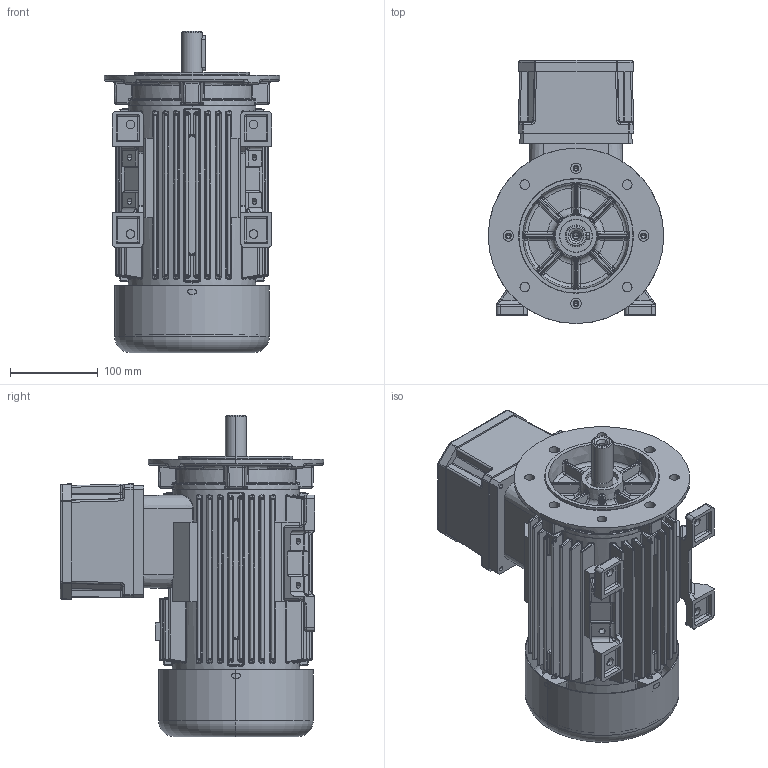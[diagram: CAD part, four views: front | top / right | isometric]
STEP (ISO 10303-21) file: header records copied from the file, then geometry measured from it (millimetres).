
FILE_DESCRIPTION (( 'STEP AP203' ), '1' );
FILE_NAME ('20.18456-E 7AT 90 B35 OG Exd STANDK.STEP', '2020-08-20T07:43:41', ( '' ), ( '' ), 'SwSTEP 2.0', 'SolidWorks 2020', '' );
FILE_SCHEMA (( 'CONFIG_CONTROL_DESIGN' ));
Length unit declared in the file: millimetre
Products named in the file (1): 20.18456-E 7AT 90 B35 OG Exd STANDK
Bounding box: 199.9 x 299.95 x 366 mm (x, y, z)
Volume: 3165960.5 mm3; surface area: 953276.5 mm2
Topology: 13 solids, 13 shells, 3549 faces, 8529 edges, 4991 vertices
Faces by surface type: plane 1134, cylinder 1038, bspline 930, torus 225, cone 128, sphere 94
Entity records: 140404 total; most frequent: CARTESIAN_POINT 66346, ORIENTED_EDGE 16562, DIRECTION 13906, EDGE_CURVE 8281, AXIS2_PLACEMENT_3D 5214, VERTEX_POINT 4989, EDGE_LOOP 3880, ADVANCED_FACE 3549
